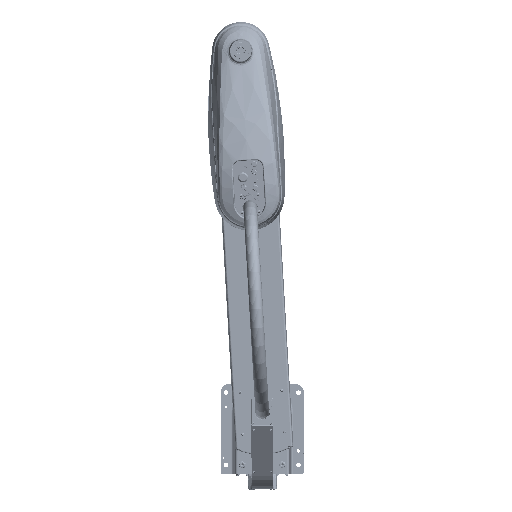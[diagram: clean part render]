
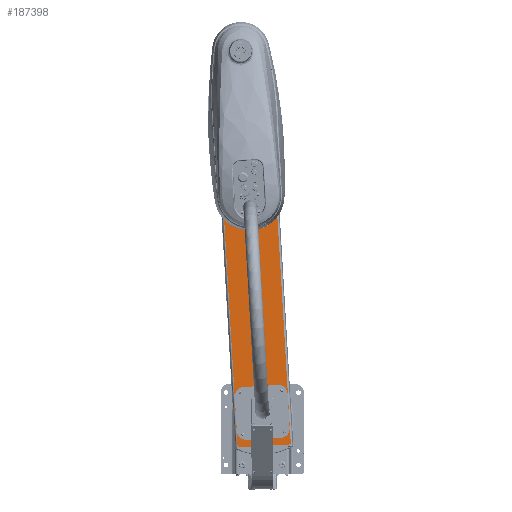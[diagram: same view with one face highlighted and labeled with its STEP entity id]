
A CAD part, top view. The second image highlights one B-rep face of the part: STEP entity #187398.
In plain terms, the highlighted planar face has unit normal (0, 0, 1) as drawn and (0, -1, 0) by its records, which use the part's own axes.
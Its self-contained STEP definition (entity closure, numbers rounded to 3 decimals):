
#13347 = EDGE_CURVE ( 'NONE', #20652, #94782, #131014, .T. ) ;
#14147 = CARTESIAN_POINT ( 'NONE',  ( -73.561, -34., 100. ) ) ;
#14997 = PLANE ( 'NONE',  #179750 ) ;
#18370 = VERTEX_POINT ( 'NONE', #108207 ) ;
#19122 = DIRECTION ( 'NONE',  ( 0., -1., 0. ) ) ;
#20652 = VERTEX_POINT ( 'NONE', #14147 ) ;
#23163 = CARTESIAN_POINT ( 'NONE',  ( 0., -34., -593.05 ) ) ;
#29884 = DIRECTION ( 'NONE',  ( 0., 0., 1. ) ) ;
#36701 = CARTESIAN_POINT ( 'NONE',  ( 73.561, -34., 100. ) ) ;
#44487 = CIRCLE ( 'NONE', #196368, 42.5 ) ;
#65974 = EDGE_LOOP ( 'NONE', ( #209418, #260530 ) ) ;
#66836 = EDGE_CURVE ( 'NONE', #20652, #110552, #191055, .T. ) ;
#73556 = CIRCLE ( 'NONE', #251663, 42.5 ) ;
#81597 = DIRECTION ( 'NONE',  ( 0., 0., -1. ) ) ;
#84021 = CARTESIAN_POINT ( 'NONE',  ( 0., -34., -635.55 ) ) ;
#94782 = VERTEX_POINT ( 'NONE', #95779 ) ;
#95164 = DIRECTION ( 'NONE',  ( 0., -1., 0. ) ) ;
#95779 = CARTESIAN_POINT ( 'NONE',  ( -73.561, -34., -670. ) ) ;
#102912 = CARTESIAN_POINT ( 'NONE',  ( 0., -34., -670. ) ) ;
#108207 = CARTESIAN_POINT ( 'NONE',  ( 0., -34., -550.55 ) ) ;
#109870 = CARTESIAN_POINT ( 'NONE',  ( 0., -34., -593.05 ) ) ;
#110552 = VERTEX_POINT ( 'NONE', #36701 ) ;
#110621 = DIRECTION ( 'NONE',  ( 0., 0., -1. ) ) ;
#118208 = DIRECTION ( 'NONE',  ( 0., 0., -1. ) ) ;
#127869 = VERTEX_POINT ( 'NONE', #150066 ) ;
#131014 = LINE ( 'NONE', #230309, #136256 ) ;
#136256 = VECTOR ( 'NONE', #110621, 1000. ) ;
#148938 = DIRECTION ( 'NONE',  ( 1., 0., 0. ) ) ;
#150066 = CARTESIAN_POINT ( 'NONE',  ( 73.561, -34., -670. ) ) ;
#161546 = EDGE_CURVE ( 'NONE', #94782, #127869, #206223, .T. ) ;
#162511 = ORIENTED_EDGE ( 'NONE', *, *, #179151, .T. ) ;
#163068 = EDGE_CURVE ( 'NONE', #18370, #199817, #73556, .T. ) ;
#164884 = ORIENTED_EDGE ( 'NONE', *, *, #13347, .T. ) ;
#176572 = CARTESIAN_POINT ( 'NONE',  ( 73.561, -34., 100. ) ) ;
#179151 = EDGE_CURVE ( 'NONE', #127869, #110552, #199626, .T. ) ;
#179750 = AXIS2_PLACEMENT_3D ( 'NONE', #198442, #95164, #118208 ) ;
#182090 = FACE_OUTER_BOUND ( 'NONE', #252441, .T. ) ;
#182157 = VECTOR ( 'NONE', #29884, 1000. ) ;
#185829 = DIRECTION ( 'NONE',  ( 1., 0., 0. ) ) ;
#187398 = ADVANCED_FACE ( 'NONE', ( #222855, #182090 ), #14997, .T. ) ;
#191055 = LINE ( 'NONE', #252232, #224280 ) ;
#192781 = DIRECTION ( 'NONE',  ( 0., -1., 0. ) ) ;
#196368 = AXIS2_PLACEMENT_3D ( 'NONE', #109870, #192781, #228185 ) ;
#198442 = CARTESIAN_POINT ( 'NONE',  ( 0., -34., -670. ) ) ;
#199626 = LINE ( 'NONE', #176572, #182157 ) ;
#199817 = VERTEX_POINT ( 'NONE', #84021 ) ;
#206223 = LINE ( 'NONE', #102912, #242328 ) ;
#206247 = EDGE_CURVE ( 'NONE', #199817, #18370, #44487, .T. ) ;
#209418 = ORIENTED_EDGE ( 'NONE', *, *, #163068, .F. ) ;
#220992 = ORIENTED_EDGE ( 'NONE', *, *, #66836, .F. ) ;
#222855 = FACE_BOUND ( 'NONE', #65974, .T. ) ;
#224280 = VECTOR ( 'NONE', #148938, 1000. ) ;
#228185 = DIRECTION ( 'NONE',  ( 0., 0., -1. ) ) ;
#230309 = CARTESIAN_POINT ( 'NONE',  ( -73.561, -34., -670. ) ) ;
#242328 = VECTOR ( 'NONE', #185829, 1000. ) ;
#251663 = AXIS2_PLACEMENT_3D ( 'NONE', #23163, #19122, #81597 ) ;
#252232 = CARTESIAN_POINT ( 'NONE',  ( 0., -34., 100. ) ) ;
#252441 = EDGE_LOOP ( 'NONE', ( #220992, #164884, #263331, #162511 ) ) ;
#260530 = ORIENTED_EDGE ( 'NONE', *, *, #206247, .F. ) ;
#263331 = ORIENTED_EDGE ( 'NONE', *, *, #161546, .T. ) ;
